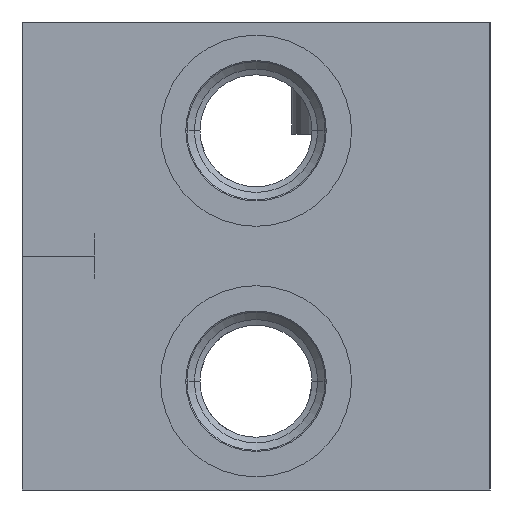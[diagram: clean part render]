
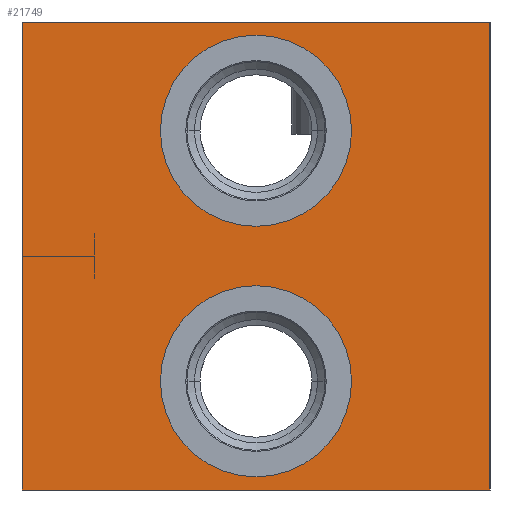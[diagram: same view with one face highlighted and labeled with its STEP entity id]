
A CAD part, left-side view. The second image highlights one B-rep face of the part: STEP entity #21749.
In plain terms, the highlighted planar face has unit normal (-1, 0, 0).
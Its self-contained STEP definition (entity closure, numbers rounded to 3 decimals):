
#26=DIRECTION('',(0.,-1.,0.));
#27=VECTOR('',#26,71.);
#28=CARTESIAN_POINT('',(0.,71.,0.));
#29=LINE('',#28,#27);
#415=DIRECTION('',(0.,0.,-1.));
#416=VECTOR('',#415,71.);
#417=CARTESIAN_POINT('',(0.,0.,0.));
#418=LINE('',#417,#416);
#3152=DIRECTION('',(0.,0.,-1.));
#3153=VECTOR('',#3152,71.);
#3154=CARTESIAN_POINT('',(0.,71.,0.));
#3155=LINE('',#3154,#3153);
#3159=CARTESIAN_POINT('',(0.,35.5,-54.5));
#3160=DIRECTION('',(1.,0.,0.));
#3161=DIRECTION('',(0.,-1.,0.));
#3162=AXIS2_PLACEMENT_3D('',#3159,#3160,#3161);
#3167=CARTESIAN_POINT('',(0.,35.5,-54.5));
#3168=DIRECTION('',(1.,0.,0.));
#3169=DIRECTION('',(0.,1.,0.));
#3170=AXIS2_PLACEMENT_3D('',#3167,#3168,#3169);
#3175=CARTESIAN_POINT('',(0.,35.5,-16.5));
#3176=DIRECTION('',(1.,0.,0.));
#3177=DIRECTION('',(0.,-1.,0.));
#3178=AXIS2_PLACEMENT_3D('',#3175,#3176,#3177);
#3183=CARTESIAN_POINT('',(0.,35.5,-16.5));
#3184=DIRECTION('',(1.,0.,0.));
#3185=DIRECTION('',(0.,1.,0.));
#3186=AXIS2_PLACEMENT_3D('',#3183,#3184,#3185);
#3212=DIRECTION('',(0.,-1.,0.));
#3213=VECTOR('',#3212,71.);
#3214=CARTESIAN_POINT('',(0.,71.,-71.));
#3215=LINE('',#3214,#3213);
#19269=CARTESIAN_POINT('',(0.,0.,0.));
#19271=VERTEX_POINT('',#19269);
#19275=CARTESIAN_POINT('',(0.,71.,0.));
#19276=VERTEX_POINT('',#19275);
#19277=CARTESIAN_POINT('',(0.,0.,-71.));
#19279=VERTEX_POINT('',#19277);
#19283=CARTESIAN_POINT('',(0.,71.,-71.));
#19284=VERTEX_POINT('',#19283);
#19341=CARTESIAN_POINT('',(0.,21.,-54.5));
#19342=CARTESIAN_POINT('',(0.,50.,-54.5));
#19343=VERTEX_POINT('',#19341);
#19344=VERTEX_POINT('',#19342);
#19361=CARTESIAN_POINT('',(0.,21.,-16.5));
#19362=CARTESIAN_POINT('',(0.,50.,-16.5));
#19363=VERTEX_POINT('',#19361);
#19364=VERTEX_POINT('',#19362);
#21725=CARTESIAN_POINT('',(0.,71.,0.));
#21726=DIRECTION('',(-1.,0.,0.));
#21727=DIRECTION('',(0.,-1.,0.));
#21728=AXIS2_PLACEMENT_3D('',#21725,#21726,#21727);
#21729=PLANE('',#21728);
#21730=ORIENTED_EDGE('',*,*,#20941,.T.);
#21731=ORIENTED_EDGE('',*,*,#21110,.T.);
#21733=ORIENTED_EDGE('',*,*,#21732,.F.);
#21734=ORIENTED_EDGE('',*,*,#21207,.F.);
#21735=EDGE_LOOP('',(#21730,#21731,#21733,#21734));
#21736=FACE_OUTER_BOUND('',#21735,.F.);
#21738=ORIENTED_EDGE('',*,*,#21737,.F.);
#21740=ORIENTED_EDGE('',*,*,#21739,.F.);
#21741=EDGE_LOOP('',(#21738,#21740));
#21742=FACE_BOUND('',#21741,.F.);
#21744=ORIENTED_EDGE('',*,*,#21743,.F.);
#21746=ORIENTED_EDGE('',*,*,#21745,.F.);
#21747=EDGE_LOOP('',(#21744,#21746));
#21748=FACE_BOUND('',#21747,.F.);
#3163=CIRCLE('',#3162,14.5);
#3171=CIRCLE('',#3170,14.5);
#3179=CIRCLE('',#3178,14.5);
#3187=CIRCLE('',#3186,14.5);
#20941=EDGE_CURVE('',#19276,#19271,#29,.T.);
#21110=EDGE_CURVE('',#19271,#19279,#418,.T.);
#21207=EDGE_CURVE('',#19276,#19284,#3155,.T.);
#21732=EDGE_CURVE('',#19284,#19279,#3215,.T.);
#21737=EDGE_CURVE('',#19343,#19344,#3163,.T.);
#21739=EDGE_CURVE('',#19344,#19343,#3171,.T.);
#21743=EDGE_CURVE('',#19363,#19364,#3179,.T.);
#21745=EDGE_CURVE('',#19364,#19363,#3187,.T.);
#21749=ADVANCED_FACE('',(#21736,#21742,#21748),#21729,.T.);
